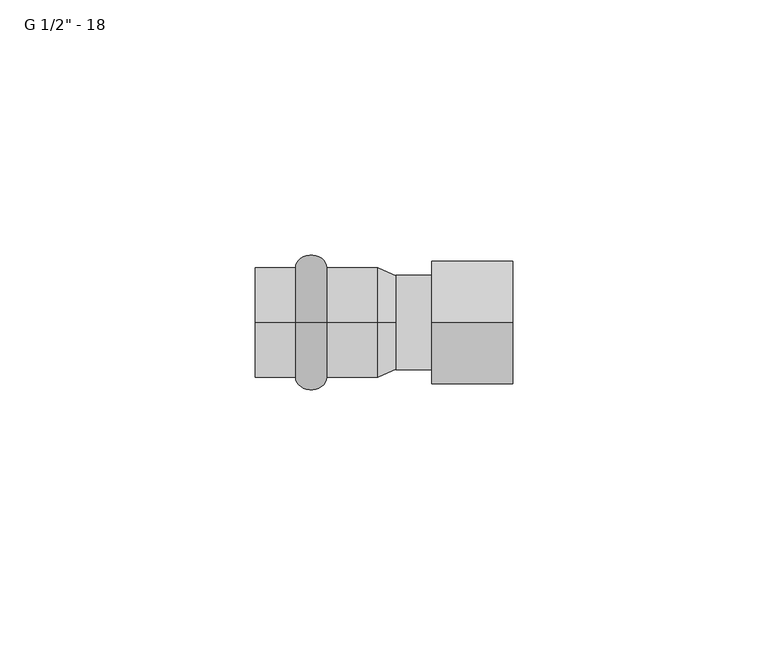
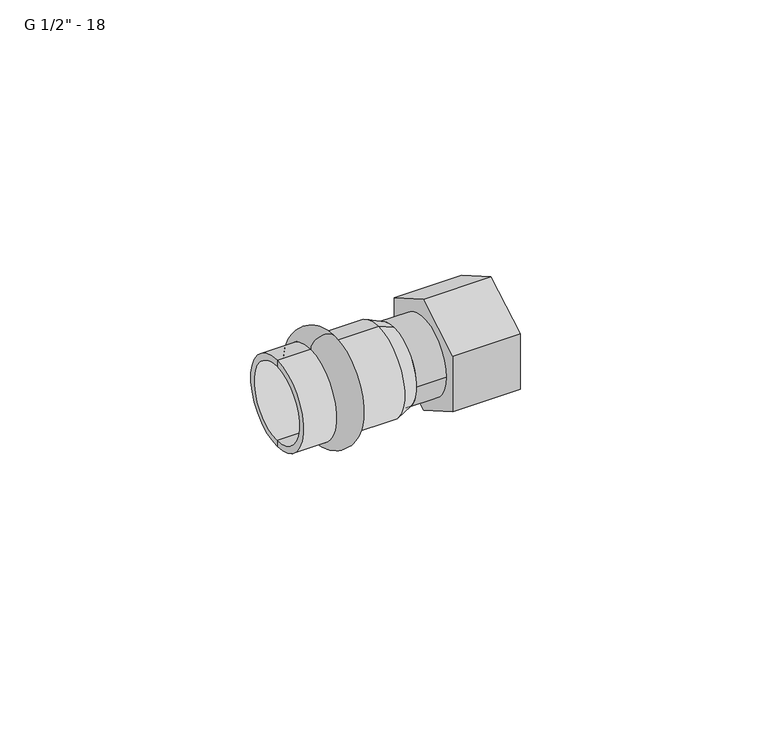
"""IFC4 building model written with IfcOpenShell, lengths in millimetres: pipe fitting geometry."""

import ifcopenshell
import ifcopenshell.guid

model = None  # the IFC model being written
_history = None  # IfcOwnerHistory: only IFC2X3 demands one
_inside = {}  # id of a spatial element -> (the spatial element, [elements in it])
_under = {}  # id of a project, library or spatial element -> (it, [spatial elements below it])
_declared = {}  # id of a project -> (the project, [libraries it declares])
_typed = {}  # id of a type object -> (the type object, [elements of that type])
_made_of = {}  # id of a material, layer set ... -> (it, [elements and type objects made of it])


def new_model(schema):
    """Start an empty IFC model of exactly this schema.

    Asked for "IFC4X3", IfcOpenShell would pick the latest addendum, in which some entities
    have other attributes; the version numbers below select the first issue.
    IFC2X3 requires an IfcOwnerHistory on every rooted entity: one is made here for all.
    """
    global model, _history
    if schema == "IFC4X3":
        model = ifcopenshell.file(schema_version=(4, 3, 0, 0))
    else:
        model = ifcopenshell.file(schema=schema)
    _inside.clear()
    _under.clear()
    _declared.clear()
    _typed.clear()
    _made_of.clear()
    _history = None
    if model.schema == "IFC2X3":
        org = make("IfcOrganization", Name="unknown")
        user = make(
            "IfcPersonAndOrganization",
            ThePerson=make("IfcPerson", FamilyName="unknown"),
            TheOrganization=org,
        )
        app = make(
            "IfcApplication",
            ApplicationDeveloper=org,
            Version="unknown",
            ApplicationFullName="unknown",
            ApplicationIdentifier="unknown",
        )
        _history = make(
            "IfcOwnerHistory",
            OwningUser=user,
            OwningApplication=app,
            ChangeAction="ADDED",
            CreationDate=0,
        )
    return model


def make(cls, **values):
    """One entity of the class cls with the attributes given. An attribute that is None is left unset."""
    return model.create_entity(
        cls, **{name: value for name, value in values.items() if value is not None}
    )


def rooted(cls, **values):
    """An entity with a GlobalId (a new one), such as an element, a storey or a relation."""
    return make(cls, GlobalId=ifcopenshell.guid.new(), OwnerHistory=_history, **values)


def si_unit(unit_type, name, prefix=None):
    """IfcSIUnit, for example si_unit("LENGTHUNIT", "METRE", prefix="MILLI")."""
    return make("IfcSIUnit", UnitType=unit_type, Prefix=prefix, Name=name)


def assignment(units):
    """IfcUnitAssignment: the units of a project."""
    return None if units is None else make("IfcUnitAssignment", Units=units)


def point(xyz):
    """IfcCartesianPoint."""
    return None if xyz is None else make("IfcCartesianPoint", Coordinates=xyz)


def direction(xyz):
    """IfcDirection."""
    return None if xyz is None else make("IfcDirection", DirectionRatios=xyz)


def frame(location, z_axis=None, x_axis=None):
    """IfcAxis2Placement3D, a coordinate frame: its origin and axes. An axis left out is left unset."""
    return make(
        "IfcAxis2Placement3D",
        Location=point(location),
        Axis=direction(z_axis),
        RefDirection=direction(x_axis),
    )


def frame_2d(location, x_axis=None):
    """IfcAxis2Placement2D, a coordinate frame in the plane: its origin and x axis."""
    return make(
        "IfcAxis2Placement2D", Location=point(location), RefDirection=direction(x_axis)
    )


def origin():
    """The frame at (0, 0, 0) with its axes left unset."""
    return frame((0.0, 0.0, 0.0))


def origin_2d():
    """The frame at (0, 0) in the plane with its x axis left unset."""
    return frame_2d((0.0, 0.0))


def place(relative_to, where):
    """IfcLocalPlacement: puts the frame where relative to a parent placement (None: the world)."""
    return make(
        "IfcLocalPlacement", PlacementRelTo=relative_to, RelativePlacement=where
    )


def context(
    kind, dimensions, precision=None, world=None, true_north=None, identifier=None
):
    """IfcGeometricRepresentationContext, for example the 3D "Model" context."""
    return make(
        "IfcGeometricRepresentationContext",
        ContextIdentifier=identifier,
        ContextType=kind,
        CoordinateSpaceDimension=dimensions,
        Precision=precision,
        WorldCoordinateSystem=world,
        TrueNorth=true_north,
    )


def project(units=None, contexts=None):
    """IfcProject with its units and contexts."""
    return rooted(
        "IfcProject",
        Name="project",
        RepresentationContexts=contexts,
        UnitsInContext=assignment(units),
    )


def spatial(cls, under=None, at=None, **own):
    """A site, building, storey or space (cls), placed at a placement, below another one or the project."""
    s = rooted(cls, ObjectPlacement=at, **own)
    if under is not None:
        _under.setdefault(under.id(), (under, []))[1].append(s)
    return s


def polyline(points):
    """IfcPolyline through the points."""
    return make("IfcPolyline", Points=[point(p) for p in points])


def circle_curve(where, radius):
    """IfcCircle in the frame where."""
    return make("IfcCircle", Position=where, Radius=radius)


def ellipse_curve(where, semi_axis1, semi_axis2):
    """IfcEllipse in the frame where."""
    return make(
        "IfcEllipse", Position=where, SemiAxis1=semi_axis1, SemiAxis2=semi_axis2
    )


def trimmed(basis, trim1, trim2, sense, master):
    """IfcTrimmedCurve: the piece of a basis curve between two trims."""
    return make(
        "IfcTrimmedCurve",
        BasisCurve=basis,
        Trim1=trim1,
        Trim2=trim2,
        SenseAgreement=sense,
        MasterRepresentation=master,
    )


def segment(curve, same_sense, transition):
    """IfcCompositeCurveSegment."""
    return make(
        "IfcCompositeCurveSegment",
        Transition=transition,
        SameSense=same_sense,
        ParentCurve=curve,
    )


def composite_curve(segments, self_intersect=None):
    """IfcCompositeCurve: segments joined end to end."""
    return make("IfcCompositeCurve", Segments=segments, SelfIntersect=self_intersect)


def outline(outer, holes=None, kind="AREA"):
    """IfcArbitraryClosedProfileDef: a profile drawn as a closed curve; with holes, ...WithVoids."""
    if holes is None:
        return make("IfcArbitraryClosedProfileDef", ProfileType=kind, OuterCurve=outer)
    return make(
        "IfcArbitraryProfileDefWithVoids",
        ProfileType=kind,
        OuterCurve=outer,
        InnerCurves=holes,
    )


def extrude(swept, where, along, depth):
    """IfcExtrudedAreaSolid: the profile swept, set in the frame where, extruded along a direction by depth."""
    return make(
        "IfcExtrudedAreaSolid",
        SweptArea=swept,
        Position=where,
        ExtrudedDirection=direction(along),
        Depth=depth,
    )


def shape(context_of_items, identifier, shape_type, items):
    """IfcShapeRepresentation: the items that make up one representation, for example the "Body"."""
    return make(
        "IfcShapeRepresentation",
        ContextOfItems=context_of_items,
        RepresentationIdentifier=identifier,
        RepresentationType=shape_type,
        Items=items,
    )


def source(mapping_origin, context_of_items, identifier, shape_type, items):
    """IfcRepresentationMap: a shape defined once, which mapped items show again and again."""
    return make(
        "IfcRepresentationMap",
        MappingOrigin=mapping_origin,
        MappedRepresentation=shape(context_of_items, identifier, shape_type, items),
    )


def transform(
    local_origin,
    x_axis=None,
    y_axis=None,
    z_axis=None,
    scale=None,
    scale2=None,
    scale3=None,
    uniform=True,
):
    """IfcCartesianTransformationOperator3D, or its non-uniform kind. x_axis, y_axis, z_axis: its Axis1, 2, 3."""
    if uniform:
        return make(
            "IfcCartesianTransformationOperator3D",
            Axis1=direction(x_axis),
            Axis2=direction(y_axis),
            LocalOrigin=point(local_origin),
            Scale=scale,
            Axis3=direction(z_axis),
        )
    return make(
        "IfcCartesianTransformationOperator3DnonUniform",
        Axis1=direction(x_axis),
        Axis2=direction(y_axis),
        LocalOrigin=point(local_origin),
        Scale=scale,
        Axis3=direction(z_axis),
        Scale2=scale2,
        Scale3=scale3,
    )


def mapped(mapping_source, mapping_target):
    """IfcMappedItem: shows the shape of a source again, moved by a transform."""
    return make(
        "IfcMappedItem", MappingSource=mapping_source, MappingTarget=mapping_target
    )


def made_of(thing, what):
    """Note that an element or type object is made of a material, layer set ...; save() writes the relation."""
    if what is not None:
        _made_of.setdefault(what.id(), (what, []))[1].append(thing)
    return thing


def element(
    cls,
    number,
    at=None,
    inside=None,
    cuts=None,
    type_object=None,
    material=None,
    context=None,
    identifier="Body",
    shape_type=None,
    held_by="IfcProductDefinitionShape",
    body=None,
    shapes=None,
    **own,
):
    """One element of the class cls, such as IfcWall. Its Tag is "e" and its number.

    at: its placement. inside: the storey or other place that contains it. cuts: it is an
    opening in that element (IfcRelVoidsElement). A single representation is given by context,
    identifier, shape_type and body (its items); several are given by shapes. held_by: the class
    of the entity that holds the representations. save() writes the other relations.
    """
    e = rooted(cls, Tag="e%d" % number, ObjectPlacement=at, **own)
    if body is not None:
        shapes = [shape(context, identifier, shape_type, body)]
    if shapes is not None:
        e.Representation = make(held_by, Representations=shapes)
    if inside is not None:
        _inside.setdefault(inside.id(), (inside, []))[1].append(e)
    if cuts is not None:
        rooted(
            "IfcRelVoidsElement", RelatingBuildingElement=cuts, RelatedOpeningElement=e
        )
    if type_object is not None:
        _typed.setdefault(type_object.id(), (type_object, []))[1].append(e)
    return made_of(e, material)


def aggregate(whole, parts):
    """IfcRelAggregates: a whole, such as a stair, and the parts it consists of."""
    return rooted("IfcRelAggregates", RelatingObject=whole, RelatedObjects=parts)


def save(model, path):
    """Write the relations noted so far, then the file.

    IfcRelAggregates (storeys below a building ...), IfcRelContainedInSpatialStructure (elements
    in a storey), IfcRelDefinesByType, IfcRelAssociatesMaterial and IfcRelDeclares: one each for
    every whole, place, type object, material and project.
    """
    for whole, parts in _under.values():
        aggregate(whole, parts)
    for where, things in _inside.values():
        rooted(
            "IfcRelContainedInSpatialStructure",
            RelatedElements=things,
            RelatingStructure=where,
        )
    for kind, things in _typed.values():
        rooted("IfcRelDefinesByType", RelatedObjects=things, RelatingType=kind)
    for what, things in _made_of.values():
        rooted("IfcRelAssociatesMaterial", RelatedObjects=things, RelatingMaterial=what)
    for by, libraries in _declared.values():
        rooted("IfcRelDeclares", RelatingContext=by, RelatedDefinitions=libraries)
    model.write(path)


def plane_surface(at):
    """IfcPlane: the flat surface through the origin of the frame at, square to its z axis."""
    return make("IfcPlane", Position=at)


def cylinder_surface(at, radius):
    """IfcCylindricalSurface: all points at the distance radius from the z axis of the frame at."""
    return make("IfcCylindricalSurface", Position=at, Radius=radius)


def revolved_surface(curve, axis_point, axis_direction):
    """IfcSurfaceOfRevolution: the curve turned about the line through axis_point along axis_direction."""
    return make(
        "IfcSurfaceOfRevolution",
        SweptCurve=make("IfcArbitraryOpenProfileDef", ProfileType="CURVE", Curve=curve),
        AxisPosition=make("IfcAxis1Placement", Location=point(axis_point), Axis=direction(axis_direction)),
    )


def advanced_brep(points, edges, surfaces, faces):
    """IfcAdvancedBrep: a solid bounded by faces that lie on surfaces and meet in shared edges.

    An edge is (start, end): straight between two places in points (the first is 0);
    or (start, end, curve); or (start, end, curve, False) where it runs against its curve.
    A face is (place in surfaces, loops), or (place, loops, False) where it looks against
    its surface's normal. A loop lists edges by number (the first is 1), with a minus sign
    where the edge is run from its end to its start. The first loop is the outer one.
    """
    corners = [point(p) for p in points]
    vertices = [make("IfcVertexPoint", VertexGeometry=c) for c in corners]
    made = []
    for start, end, *more in edges:
        made.append(
            make(
                "IfcEdgeCurve",
                EdgeStart=vertices[start],
                EdgeEnd=vertices[end],
                EdgeGeometry=more[0] if more else make("IfcPolyline", Points=[corners[start], corners[end]]),
                SameSense=more[1] if len(more) > 1 else True,
            )
        )
    hull = []
    for where, loops, *sense in faces:
        bounds = []
        for j, loop in enumerate(loops):
            ring = [make("IfcOrientedEdge", EdgeElement=made[abs(k) - 1], Orientation=k > 0) for k in loop]
            bounds.append(
                make(
                    "IfcFaceOuterBound" if j == 0 else "IfcFaceBound",
                    Bound=make("IfcEdgeLoop", EdgeList=ring),
                    Orientation=True,
                )
            )
        hull.append(make("IfcAdvancedFace", Bounds=bounds, FaceSurface=surfaces[where], SameSense=sense[0] if sense else True))
    return make("IfcAdvancedBrep", Outer=make("IfcClosedShell", CfsFaces=hull))


def pipe_fitting_2ce4cc89(model_context):
    return source(origin(), model_context, "Body", "SolidModel", [
        advanced_brep(
        [(-16.1, 0.0, 10.75), (-16.1, 0.0, -10.75), (-10.0, 0.0, -10.75), (-10.0, 0.0, 10.75)],
        [
            (0, 1, circle_curve(frame((-16.1, 0.0, 0.0), z_axis=(-1.0, 0.0, 0.0), x_axis=(0.0, 0.0, -1.0)), 10.75)),
            (1, 2),
            (2, 3, circle_curve(frame((-10.0, 0.0, 0.0), z_axis=(1.0, 0.0, 0.0), x_axis=(0.0, 0.0, -1.0)), 10.75)),
            (3, 0),
            (1, 0, circle_curve(frame((-16.1, 0.0, 0.0), z_axis=(-1.0, 0.0, 0.0), x_axis=(0.0, 0.0, -1.0)), 10.75)),
            (3, 2, circle_curve(frame((-10.0, 0.0, 0.0), z_axis=(1.0, 0.0, 0.0), x_axis=(0.0, 0.0, -1.0)), 10.75)),
            (2, 1, ellipse_curve(frame((-13.05, 0.0, -10.75), z_axis=(0.0, 1.0, 0.0), x_axis=(-1.0, 0.0, 0.0)), 3.05, 2.5)),
            (0, 3, ellipse_curve(frame((-13.05, 0.0, 10.75), z_axis=(0.0, 1.0, 0.0), x_axis=(-1.0, 0.0, 0.0)), 3.05, 2.5)),
        ],
        [
            revolved_surface(polyline([(-10.0, 0.0, -10.75), (-16.1, 0.0, -10.75)]), (3.0, 0.0, 0.0), (1.0, 0.0, 0.0)),
            revolved_surface(trimmed(ellipse_curve(frame((-13.05, 0.0, -10.75), z_axis=(0.0, -1.0, 0.0), x_axis=(-1.0, 0.0, 0.0)), 3.05, 2.5), [point((-16.1, 0.0, -10.75))], [point((-10.0, 0.0, -10.75))], True, "CARTESIAN"), (3.0, 0.0, 0.0), (1.0, 0.0, 0.0)),
        ],
        [
            (0, [[1, 2, 3, 4]]),
            (0, [[5, -4, 6, -2]]),
            (1, [[-3, 7, -1, 8]]),
            (1, [[-6, -8, -5, -7]]),
        ],
    ),
        advanced_brep(
        [(3.5337785, 0.0, 9.25), (3.5337785, 0.0, -9.25), (0.0, 0.0, -10.75), (0.0, 0.0, 10.75), (-24.0, 0.0, 9.25), (-24.0, 0.0, -9.25), (-24.0, 0.0, 10.75), (-24.0, 0.0, -10.75)],
        [
            (0, 1, circle_curve(frame((3.5337785, 0.0, 0.0), z_axis=(-1.0, 0.0, 0.0), x_axis=(0.0, 0.0, -1.0)), 9.25)),
            (1, 2),
            (2, 3, circle_curve(frame((0.0, 0.0, 0.0), z_axis=(1.0, 0.0, 0.0), x_axis=(0.0, 0.0, -1.0)), 10.75)),
            (3, 0),
            (1, 0, circle_curve(frame((3.5337785, 0.0, 0.0), z_axis=(-1.0, 0.0, 0.0), x_axis=(0.0, 0.0, -1.0)), 9.25)),
            (3, 2, circle_curve(frame((0.0, 0.0, 0.0), z_axis=(1.0, 0.0, 0.0), x_axis=(0.0, 0.0, -1.0)), 10.75)),
            (4, 5, circle_curve(frame((-24.0, 0.0, 0.0), z_axis=(-1.0, 0.0, 0.0), x_axis=(0.0, 0.0, -1.0)), 9.25)),
            (5, 1),
            (0, 4),
            (5, 4, circle_curve(frame((-24.0, 0.0, 0.0), z_axis=(-1.0, 0.0, 0.0), x_axis=(0.0, 0.0, -1.0)), 9.25)),
            (6, 7, circle_curve(frame((-24.0, 0.0, 0.0), z_axis=(-1.0, 0.0, 0.0), x_axis=(0.0, 0.0, -1.0)), 10.75)),
            (7, 5),
            (4, 6),
            (7, 6, circle_curve(frame((-24.0, 0.0, 0.0), z_axis=(-1.0, 0.0, 0.0), x_axis=(0.0, 0.0, -1.0)), 10.75)),
            (2, 7),
            (6, 3),
        ],
        [
            revolved_surface(polyline([(0.0, 0.0, -10.75), (3.5337785, 0.0, -9.25)]), (3.0, 0.0, 0.0), (1.0, 0.0, 0.0)),
            revolved_surface(polyline([(3.5337785, 0.0, -9.25), (-24.0, 0.0, -9.25)]), (3.0, 0.0, 0.0), (1.0, 0.0, 0.0)),
            plane_surface(frame((-24.0, 0.0, 0.0), z_axis=(-1.0, 0.0, 0.0), x_axis=(0.0, 0.0, -1.0))),
            cylinder_surface(frame((3.0, 0.0, 0.0), z_axis=(1.0, 0.0, 0.0), x_axis=(0.0, 0.0, -1.0)), 10.75),
        ],
        [
            (0, [[1, 2, 3, 4]]),
            (0, [[5, -4, 6, -2]]),
            (1, [[7, 8, -1, 9]]),
            (1, [[10, -9, -5, -8]]),
            (2, [[11, 12, -7, 13]]),
            (2, [[14, -13, -10, -12]]),
            (3, [[-3, 15, -11, 16]]),
            (3, [[-6, -16, -14, -15]]),
        ],
    ),
        extrude(outline(composite_curve([segment(trimmed(circle_curve(origin_2d(), 9.25), [point((-9.25, 0.0))], [point((9.25, 0.0))], False, "CARTESIAN"), True, "CONTINUOUS"), segment(trimmed(circle_curve(origin_2d(), 9.25), [point((9.25, 0.0))], [point((-9.25, 0.0))], False, "CARTESIAN"), True, "CONTINUOUS")], self_intersect=False)), frame((3.5337785, 0.0, 0.0), z_axis=(1.0, 0.0, 0.0), x_axis=(0.0, 1.0, 0.0)), (0.0, 0.0, 1.0), 7.0),
        advanced_brep(
        [(26.4337785, -12.0, -6.9282032), (10.5337785, -12.0, -6.9282032), (10.5337785, 0.0, -13.8564065), (26.4337785, 0.0, -13.8564065), (10.5337785, 12.0, -6.9282032), (26.4337785, 12.0, -6.9282032), (26.4337785, 12.0, 6.9282032), (10.5337785, 12.0, 6.9282032), (10.5337785, 0.0, 13.8564065), (26.4337785, 0.0, 13.8564065), (10.5337785, -12.0, 6.9282032), (26.4337785, -12.0, 6.9282032), (26.4337785, -10.75, 0.0), (26.4337785, 10.75, 0.0), (10.5337785, -2.0, -1.1547005), (10.5337785, 0.0, -2.3094011), (10.5337785, 2.0, -1.1547005), (10.5337785, 2.0, 1.1547005), (10.5337785, 0.0, 2.3094011), (10.5337785, -2.0, 1.1547005), (14.5337785, -10.75, 0.0), (14.5337785, 10.75, 0.0), (14.5337785, 0.0, -2.3094011), (14.5337785, -2.0, -1.1547005), (14.5337785, -2.0, 1.1547005), (14.5337785, 0.0, 2.3094011), (14.5337785, 2.0, 1.1547005), (14.5337785, 2.0, -1.1547005)],
        [
            (0, 1),
            (1, 2),
            (2, 3),
            (3, 0),
            (2, 4),
            (4, 5),
            (5, 3),
            (6, 7),
            (7, 8),
            (8, 9),
            (9, 6),
            (8, 10),
            (10, 11),
            (11, 9),
            (4, 7),
            (6, 5),
            (11, 0),
            (12, 13, circle_curve(frame((26.4337785, 0.0, 0.0), z_axis=(-1.0, 0.0, 0.0), x_axis=(0.0, 1.0, 0.0)), 10.75)),
            (13, 12, circle_curve(frame((26.4337785, 0.0, 0.0), z_axis=(-1.0, 0.0, 0.0), x_axis=(0.0, 1.0, 0.0)), 10.75)),
            (1, 10),
            (14, 15),
            (15, 16),
            (16, 17),
            (17, 18),
            (18, 19),
            (19, 14),
            (20, 21, circle_curve(frame((14.5337785, 0.0, 0.0), z_axis=(1.0, 0.0, 0.0), x_axis=(0.0, 1.0, 0.0)), 10.75)),
            (21, 20, circle_curve(frame((14.5337785, 0.0, 0.0), z_axis=(1.0, 0.0, 0.0), x_axis=(0.0, 1.0, 0.0)), 10.75)),
            (22, 23),
            (23, 24),
            (24, 25),
            (25, 26),
            (26, 27),
            (27, 22),
            (21, 13),
            (12, 20),
            (14, 23),
            (22, 15),
            (27, 16),
            (17, 26),
            (25, 18),
            (24, 19),
        ],
        [
            plane_surface(frame((10.5337785, -12.0, -6.9282032), z_axis=(0.0, -0.5000000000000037, -0.8660254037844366), x_axis=(0.0, 0.8660254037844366, -0.5000000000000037))),
            plane_surface(frame((10.5337785, 0.0, -13.8564065), z_axis=(0.0, 0.4999999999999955, -0.8660254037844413), x_axis=(0.0, 0.8660254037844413, 0.4999999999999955))),
            plane_surface(frame((10.5337785, 12.0, 6.9282032), z_axis=(0.0, 0.5000000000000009, 0.8660254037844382), x_axis=(0.0, -0.8660254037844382, 0.5000000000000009))),
            plane_surface(frame((10.5337785, 0.0, 13.8564065), z_axis=(0.0, -0.4999999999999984, 0.8660254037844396), x_axis=(0.0, -0.8660254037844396, -0.4999999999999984))),
            plane_surface(frame((10.5337785, 12.0, -6.9282032), z_axis=(0.0, 1.0, 0.0), x_axis=(0.0, 0.0, 1.0))),
            plane_surface(frame((26.4337785, -12.0, 6.9282032), z_axis=(1.0, 0.0, 0.0), x_axis=(0.0, 0.0, -1.0))),
            plane_surface(frame((10.5337785, -2.0, 1.1547005), z_axis=(-1.0, 0.0, 0.0), x_axis=(0.0, 0.0, -1.0))),
            plane_surface(frame((10.5337785, -12.0, 6.9282032), z_axis=(0.0, -1.0, 0.0), x_axis=(0.0, 0.0, -1.0))),
            plane_surface(frame((14.5337785, 10.75, 0.0), z_axis=(1.0, 0.0, 0.0), x_axis=(0.0, 0.0, -1.0))),
            revolved_surface(polyline([(26.4337785, 10.75, 0.0), (14.5337785, 10.75, 0.0)]), (14.5337785, 0.0, 0.0), (1.0, 0.0, 0.0)),
            plane_surface(frame((26.4337785, -2.0, -1.1547005), z_axis=(0.0, 0.5000000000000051, 0.8660254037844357), x_axis=(0.0, 0.8660254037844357, -0.5000000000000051))),
            plane_surface(frame((26.4337785, 0.0, -2.3094011), z_axis=(0.0, -0.49999999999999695, 0.8660254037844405), x_axis=(0.0, 0.8660254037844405, 0.49999999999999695))),
            plane_surface(frame((26.4337785, 2.0, 1.1547005), z_axis=(0.0, -0.5000000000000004, -0.8660254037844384), x_axis=(0.0, -0.8660254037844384, 0.5000000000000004))),
            plane_surface(frame((26.4337785, 0.0, 2.3094011), z_axis=(0.0, 0.4999999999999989, -0.8660254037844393), x_axis=(0.0, -0.8660254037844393, -0.4999999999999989))),
            plane_surface(frame((26.4337785, 2.0, -1.1547005), z_axis=(0.0, -1.0, 0.0), x_axis=(0.0, 0.0, 1.0))),
            plane_surface(frame((26.4337785, -2.0, 1.1547005), z_axis=(0.0, 1.0, 0.0), x_axis=(0.0, 0.0, -1.0))),
        ],
        [
            (0, [[1, 2, 3, 4]]),
            (1, [[-3, 5, 6, 7]]),
            (2, [[8, 9, 10, 11]]),
            (3, [[-10, 12, 13, 14]]),
            (4, [[-6, 15, -8, 16]]),
            (5, [[-4, -7, -16, -11, -14, 17], [18, 19]]),
            (6, [[-2, 20, -12, -9, -15, -5], [21, 22, 23, 24, 25, 26]]),
            (7, [[-1, -17, -13, -20]]),
            (8, [[27, 28], [29, 30, 31, 32, 33, 34]]),
            (9, [[-28, 35, -18, 36]]),
            (9, [[-27, -36, -19, -35]]),
            (10, [[-21, 37, -29, 38]]),
            (11, [[-22, -38, -34, 39]]),
            (12, [[-24, 40, -32, 41]]),
            (13, [[-25, -41, -31, 42]]),
            (14, [[-23, -39, -33, -40]]),
            (15, [[-26, -42, -30, -37]]),
        ],
    ),
    ])


if __name__ == "__main__":
    model = new_model("IFC4")
    model_context = context("Model", 3, world=origin())
    ifc_project = project(units=[si_unit("LENGTHUNIT", "METRE", prefix="MILLI")], contexts=[model_context])
    site = spatial("IfcSite", under=ifc_project)
    building = spatial("IfcBuilding", under=site)
    placement = place(None, origin())
    pipe_fitting_shape = pipe_fitting_2ce4cc89(model_context)
    element("IfcPipeFitting", 1, ObjectType="РЕХАУ_Пресс Муфта с накидной гайкой : G 1/2\" - 18", at=placement, inside=building, context=model_context, shape_type="MappedRepresentation", body=[
        mapped(pipe_fitting_shape, transform((0.0, 0.0, 0.0), x_axis=(1.0, 0.0, 0.0), y_axis=(0.0, 1.0, 0.0), z_axis=(0.0, 0.0, 1.0))),
    ])
    save(model, "model.ifc")
